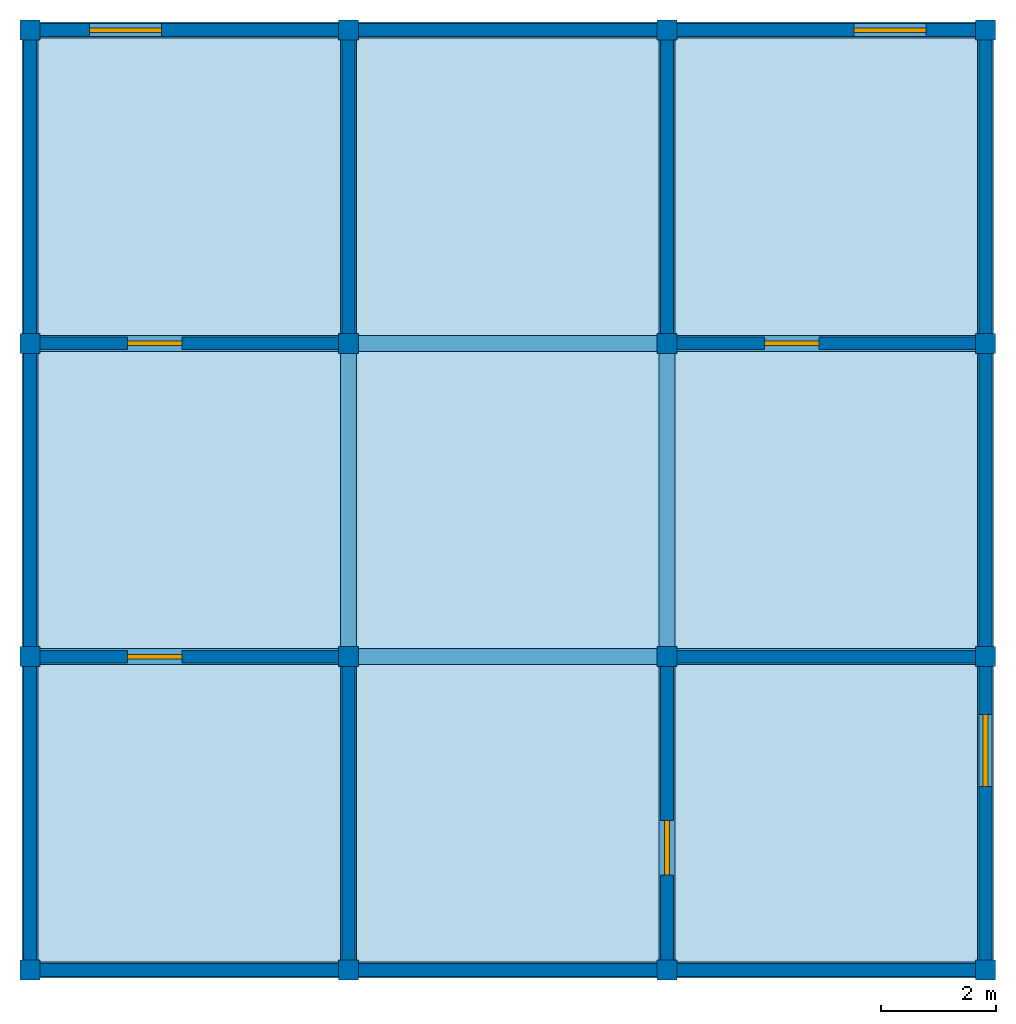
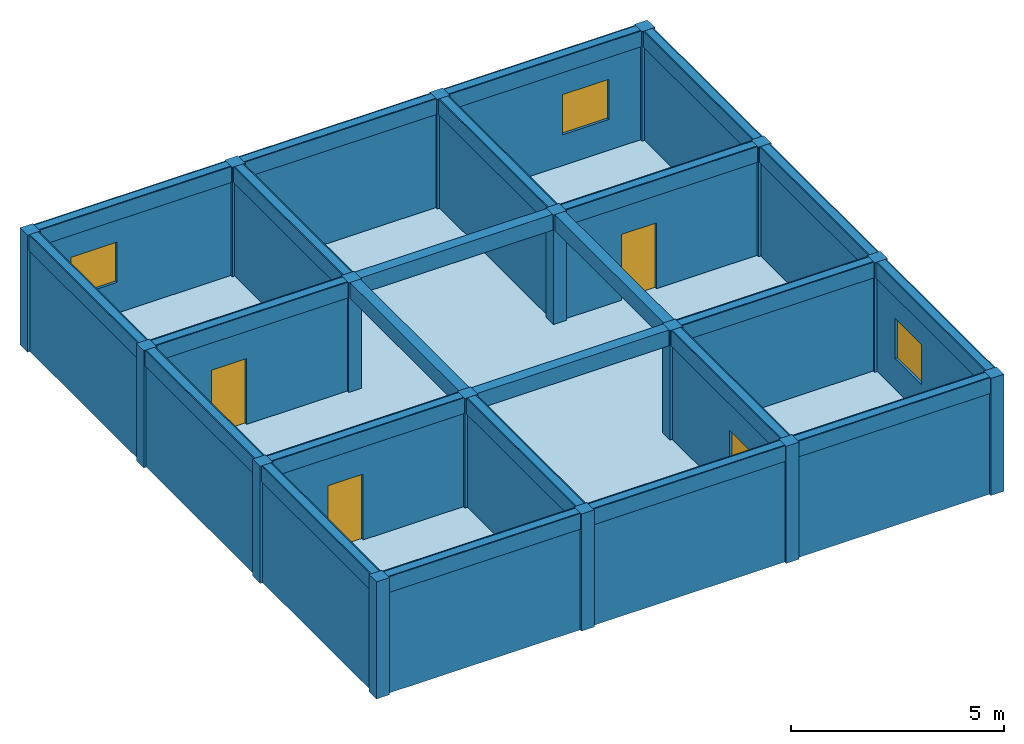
# One storey: 24 beams, 20 walls, 16 columns, 4 doors, 3 windows, 1 slab, 7 openings.
"""IFC4X3 building model written with IfcOpenShell, lengths in metres."""

from ifc_helpers import new_model, si_unit, frame, origin_with_axes, origin_2d, place, context, project, spatial, rectangle, extrude, material, element, fill, save


model = new_model("IFC4X3")

# Units and contexts
model_context = context("Model", 3, precision=1e-05, world=origin_with_axes())
ifc_project = project(units=[si_unit("LENGTHUNIT", "METRE"), si_unit("AREAUNIT", "SQUARE_METRE"), si_unit("VOLUMEUNIT", "CUBIC_METRE")], contexts=[model_context])

# Site, building, storey
site = spatial("IfcSite", under=ifc_project, Name="La Serena Parcel", CompositionType="ELEMENT")
building = spatial("IfcBuilding", under=site, Name="Atlas Building", CompositionType="ELEMENT")
storey = spatial("IfcBuildingStorey", under=building, Name="Level 10", CompositionType="ELEMENT", Elevation=30.14)

# Columns
ifc_material_1 = material(Name="Concrete")
column_1_placement = place(None, frame((-8.31, -8.175, 30.141), z_axis=(0.0, 0.0, 1.0), x_axis=(1.0, 0.0, 0.0)))
element("IfcColumn", 1, at=column_1_placement, inside=storey, material=ifc_material_1, Name="Column 10.1", ObjectType="Facade Column", PredefinedType="NOTDEFINED", context=model_context, shape_type="SweptSolid", body=[
    extrude(rectangle(XDim=0.35, YDim=0.35, at=origin_2d()), origin_with_axes(), (0.0, 0.0, 1.0), 3.349),
])
column_2_placement = place(None, frame((-8.31, -2.725, 30.141), z_axis=(0.0, 0.0, 1.0), x_axis=(1.0, 0.0, 0.0)))
element("IfcColumn", 2, at=column_2_placement, inside=storey, material=ifc_material_1, Name="Column 10.2", ObjectType="Corner Column", PredefinedType="USERDEFINED", context=model_context, shape_type="SweptSolid", body=[
    extrude(rectangle(XDim=0.35, YDim=0.35, at=origin_2d()), origin_with_axes(), (0.0, 0.0, 1.0), 3.349),
])
column_3_placement = place(None, frame((-8.31, 2.725, 30.141), z_axis=(0.0, 0.0, 1.0), x_axis=(1.0, 0.0, 0.0)))
element("IfcColumn", 3, at=column_3_placement, inside=storey, material=ifc_material_1, Name="Column 10.3", ObjectType="Core Column", PredefinedType="USERDEFINED", context=model_context, shape_type="SweptSolid", body=[
    extrude(rectangle(XDim=0.35, YDim=0.35, at=origin_2d()), origin_with_axes(), (0.0, 0.0, 1.0), 3.349),
])
column_4_placement = place(None, frame((-8.31, 8.175, 30.141), z_axis=(0.0, 0.0, 1.0), x_axis=(1.0, 0.0, 0.0)))
element("IfcColumn", 4, at=column_4_placement, inside=storey, material=ifc_material_1, Name="Column 10.4", ObjectType="Structural Column", PredefinedType="NOTDEFINED", context=model_context, shape_type="SweptSolid", body=[
    extrude(rectangle(XDim=0.35, YDim=0.35, at=origin_2d()), origin_with_axes(), (0.0, 0.0, 1.0), 3.349),
])
column_5_placement = place(None, frame((-2.77, -8.175, 30.141), z_axis=(0.0, 0.0, 1.0), x_axis=(1.0, 0.0, 0.0)))
element("IfcColumn", 5, at=column_5_placement, inside=storey, material=ifc_material_1, Name="Column 10.5", ObjectType="Corner Column", PredefinedType="USERDEFINED", context=model_context, shape_type="SweptSolid", body=[
    extrude(rectangle(XDim=0.35, YDim=0.35, at=origin_2d()), origin_with_axes(), (0.0, 0.0, 1.0), 3.349),
])
column_6_placement = place(None, frame((-2.77, -2.725, 30.141), z_axis=(0.0, 0.0, 1.0), x_axis=(1.0, 0.0, 0.0)))
element("IfcColumn", 6, at=column_6_placement, inside=storey, material=ifc_material_1, Name="Column 10.6", ObjectType="Corner Column", PredefinedType="COLUMN", context=model_context, shape_type="SweptSolid", body=[
    extrude(rectangle(XDim=0.35, YDim=0.35, at=origin_2d()), origin_with_axes(), (0.0, 0.0, 1.0), 3.349),
])
column_7_placement = place(None, frame((-2.77, 2.725, 30.141), z_axis=(0.0, 0.0, 1.0), x_axis=(1.0, 0.0, 0.0)))
element("IfcColumn", 7, at=column_7_placement, inside=storey, material=ifc_material_1, Name="Column 10.7", ObjectType="Structural Column", PredefinedType="PILASTER", context=model_context, shape_type="SweptSolid", body=[
    extrude(rectangle(XDim=0.35, YDim=0.35, at=origin_2d()), origin_with_axes(), (0.0, 0.0, 1.0), 3.349),
])
column_8_placement = place(None, frame((-2.77, 8.175, 30.141), z_axis=(0.0, 0.0, 1.0), x_axis=(1.0, 0.0, 0.0)))
element("IfcColumn", 8, at=column_8_placement, inside=storey, material=ifc_material_1, Name="Column 10.8", ObjectType="Core Column", PredefinedType="NOTDEFINED", context=model_context, shape_type="SweptSolid", body=[
    extrude(rectangle(XDim=0.35, YDim=0.35, at=origin_2d()), origin_with_axes(), (0.0, 0.0, 1.0), 3.349),
])
column_9_placement = place(None, frame((2.77, -8.175, 30.141), z_axis=(0.0, 0.0, 1.0), x_axis=(1.0, 0.0, 0.0)))
element("IfcColumn", 9, at=column_9_placement, inside=storey, material=ifc_material_1, Name="Column 10.9", ObjectType="Structural Column", PredefinedType="PILASTER", context=model_context, shape_type="SweptSolid", body=[
    extrude(rectangle(XDim=0.35, YDim=0.35, at=origin_2d()), origin_with_axes(), (0.0, 0.0, 1.0), 3.349),
])
column_10_placement = place(None, frame((2.77, -2.725, 30.141), z_axis=(0.0, 0.0, 1.0), x_axis=(1.0, 0.0, 0.0)))
element("IfcColumn", 10, at=column_10_placement, inside=storey, material=ifc_material_1, Name="Column 10.10", ObjectType="Facade Column", PredefinedType="USERDEFINED", context=model_context, shape_type="SweptSolid", body=[
    extrude(rectangle(XDim=0.35, YDim=0.35, at=origin_2d()), origin_with_axes(), (0.0, 0.0, 1.0), 3.349),
])
column_11_placement = place(None, frame((2.77, 2.725, 30.141), z_axis=(0.0, 0.0, 1.0), x_axis=(1.0, 0.0, 0.0)))
element("IfcColumn", 11, at=column_11_placement, inside=storey, material=ifc_material_1, Name="Column 10.11", ObjectType="Facade Column", PredefinedType="NOTDEFINED", context=model_context, shape_type="SweptSolid", body=[
    extrude(rectangle(XDim=0.35, YDim=0.35, at=origin_2d()), origin_with_axes(), (0.0, 0.0, 1.0), 3.349),
])
for number, where, z_axis, x_axis, name in (
    (12, (2.77, 8.175, 30.141), (0.0, 0.0, 1.0), (1.0, 0.0, 0.0), "Column 10.12"),
    (13, (8.31, -8.175, 30.141), (0.0, 0.0, 1.0), (1.0, 0.0, 0.0), "Column 10.13"),
):
    element("IfcColumn", number, at=place(None, frame(where, z_axis=z_axis, x_axis=x_axis)), inside=storey, material=ifc_material_1, Name=name, ObjectType="Corner Column", PredefinedType="PILASTER", context=model_context, shape_type="SweptSolid", body=[
        extrude(rectangle(XDim=0.35, YDim=0.35, at=origin_2d()), origin_with_axes(), (0.0, 0.0, 1.0), 3.349),
    ])
column_12_placement = place(None, frame((8.31, -2.725, 30.141), z_axis=(0.0, 0.0, 1.0), x_axis=(1.0, 0.0, 0.0)))
element("IfcColumn", 14, at=column_12_placement, inside=storey, material=ifc_material_1, Name="Column 10.14", ObjectType="Facade Column", PredefinedType="USERDEFINED", context=model_context, shape_type="SweptSolid", body=[
    extrude(rectangle(XDim=0.35, YDim=0.35, at=origin_2d()), origin_with_axes(), (0.0, 0.0, 1.0), 3.349),
])
for number, where, z_axis, x_axis, name in (
    (15, (8.31, 2.725, 30.141), (0.0, 0.0, 1.0), (1.0, 0.0, 0.0), "Column 10.15"),
    (16, (8.31, 8.175, 30.141), (0.0, 0.0, 1.0), (1.0, 0.0, 0.0), "Column 10.16"),
):
    element("IfcColumn", number, at=place(None, frame(where, z_axis=z_axis, x_axis=x_axis)), inside=storey, material=ifc_material_1, Name=name, ObjectType="Corner Column", PredefinedType="PILASTER", context=model_context, shape_type="SweptSolid", body=[
        extrude(rectangle(XDim=0.35, YDim=0.35, at=origin_2d()), origin_with_axes(), (0.0, 0.0, 1.0), 3.349),
    ])

# Beams
ifc_material_2 = material(Name="Timber")
beam_1_placement = place(None, frame((-5.54, -8.175, 33.04), z_axis=(0.0, 0.0, 1.0), x_axis=(1.0, 0.0, 0.0)))
element("IfcBeam", 17, at=beam_1_placement, inside=storey, material=ifc_material_2, Name="Beam 10.1", ObjectType="Rafter Beam", PredefinedType="NOTDEFINED", context=model_context, shape_type="SweptSolid", body=[
    extrude(rectangle(XDim=5.54, YDim=0.28, at=origin_2d()), origin_with_axes(), (0.0, 0.0, 1.0), 0.45),
])
beam_2_placement = place(None, frame((0.0, -8.175, 33.04), z_axis=(0.0, 0.0, 1.0), x_axis=(1.0, 0.0, 0.0)))
element("IfcBeam", 18, at=beam_2_placement, inside=storey, material=ifc_material_2, Name="Beam 10.2", ObjectType="Ridge Beam", PredefinedType="NOTDEFINED", context=model_context, shape_type="SweptSolid", body=[
    extrude(rectangle(XDim=5.54, YDim=0.28, at=origin_2d()), origin_with_axes(), (0.0, 0.0, 1.0), 0.45),
])
beam_3_placement = place(None, frame((5.54, -8.175, 33.04), z_axis=(0.0, 0.0, 1.0), x_axis=(1.0, 0.0, 0.0)))
element("IfcBeam", 19, at=beam_3_placement, inside=storey, material=ifc_material_2, Name="Beam 10.3", ObjectType="Primary Beam", PredefinedType="JOIST", context=model_context, shape_type="SweptSolid", body=[
    extrude(rectangle(XDim=5.54, YDim=0.28, at=origin_2d()), origin_with_axes(), (0.0, 0.0, 1.0), 0.45),
])
beam_4_placement = place(None, frame((-5.54, -2.725, 33.04), z_axis=(0.0, 0.0, 1.0), x_axis=(1.0, 0.0, 0.0)))
element("IfcBeam", 20, at=beam_4_placement, inside=storey, material=ifc_material_2, Name="Beam 10.4", ObjectType="Transfer Beam", PredefinedType="HOLLOWCORE", context=model_context, shape_type="SweptSolid", body=[
    extrude(rectangle(XDim=5.54, YDim=0.28, at=origin_2d()), origin_with_axes(), (0.0, 0.0, 1.0), 0.45),
])
beam_5_placement = place(None, frame((0.0, -2.725, 33.04), z_axis=(0.0, 0.0, 1.0), x_axis=(1.0, 0.0, 0.0)))
element("IfcBeam", 21, at=beam_5_placement, inside=storey, material=ifc_material_2, Name="Beam 10.5", ObjectType="Transfer Beam", PredefinedType="USERDEFINED", context=model_context, shape_type="SweptSolid", body=[
    extrude(rectangle(XDim=5.54, YDim=0.28, at=origin_2d()), origin_with_axes(), (0.0, 0.0, 1.0), 0.45),
])
beam_6_placement = place(None, frame((5.54, -2.725, 33.04), z_axis=(0.0, 0.0, 1.0), x_axis=(1.0, 0.0, 0.0)))
element("IfcBeam", 22, at=beam_6_placement, inside=storey, material=ifc_material_2, Name="Beam 10.6", ObjectType="Primary Beam", PredefinedType="JOIST", context=model_context, shape_type="SweptSolid", body=[
    extrude(rectangle(XDim=5.54, YDim=0.28, at=origin_2d()), origin_with_axes(), (0.0, 0.0, 1.0), 0.45),
])
beam_7_placement = place(None, frame((-5.54, 2.725, 33.04), z_axis=(0.0, 0.0, 1.0), x_axis=(1.0, 0.0, 0.0)))
element("IfcBeam", 23, at=beam_7_placement, inside=storey, material=ifc_material_2, Name="Beam 10.7", ObjectType="Primary Beam", PredefinedType="HOLLOWCORE", context=model_context, shape_type="SweptSolid", body=[
    extrude(rectangle(XDim=5.54, YDim=0.28, at=origin_2d()), origin_with_axes(), (0.0, 0.0, 1.0), 0.45),
])
beam_8_placement = place(None, frame((0.0, 2.725, 33.04), z_axis=(0.0, 0.0, 1.0), x_axis=(1.0, 0.0, 0.0)))
element("IfcBeam", 24, at=beam_8_placement, inside=storey, material=ifc_material_2, Name="Beam 10.8", ObjectType="Transfer Beam", PredefinedType="NOTDEFINED", context=model_context, shape_type="SweptSolid", body=[
    extrude(rectangle(XDim=5.54, YDim=0.28, at=origin_2d()), origin_with_axes(), (0.0, 0.0, 1.0), 0.45),
])
beam_9_placement = place(None, frame((5.54, 2.725, 33.04), z_axis=(0.0, 0.0, 1.0), x_axis=(1.0, 0.0, 0.0)))
element("IfcBeam", 25, at=beam_9_placement, inside=storey, material=ifc_material_2, Name="Beam 10.9", ObjectType="Ridge Beam", PredefinedType="BEAM", context=model_context, shape_type="SweptSolid", body=[
    extrude(rectangle(XDim=5.54, YDim=0.28, at=origin_2d()), origin_with_axes(), (0.0, 0.0, 1.0), 0.45),
])
beam_10_placement = place(None, frame((-5.54, 8.175, 33.04), z_axis=(0.0, 0.0, 1.0), x_axis=(1.0, 0.0, 0.0)))
element("IfcBeam", 26, at=beam_10_placement, inside=storey, material=ifc_material_2, Name="Beam 10.10", ObjectType="Ridge Beam", PredefinedType="USERDEFINED", context=model_context, shape_type="SweptSolid", body=[
    extrude(rectangle(XDim=5.54, YDim=0.28, at=origin_2d()), origin_with_axes(), (0.0, 0.0, 1.0), 0.45),
])
beam_11_placement = place(None, frame((0.0, 8.175, 33.04), z_axis=(0.0, 0.0, 1.0), x_axis=(1.0, 0.0, 0.0)))
element("IfcBeam", 27, at=beam_11_placement, inside=storey, material=ifc_material_2, Name="Beam 10.11", ObjectType="Rafter Beam", PredefinedType="HOLLOWCORE", context=model_context, shape_type="SweptSolid", body=[
    extrude(rectangle(XDim=5.54, YDim=0.28, at=origin_2d()), origin_with_axes(), (0.0, 0.0, 1.0), 0.45),
])
beam_12_placement = place(None, frame((5.54, 8.175, 33.04), z_axis=(0.0, 0.0, 1.0), x_axis=(1.0, 0.0, 0.0)))
element("IfcBeam", 28, at=beam_12_placement, inside=storey, material=ifc_material_2, Name="Beam 10.12", ObjectType="Rafter Beam", PredefinedType="USERDEFINED", context=model_context, shape_type="SweptSolid", body=[
    extrude(rectangle(XDim=5.54, YDim=0.28, at=origin_2d()), origin_with_axes(), (0.0, 0.0, 1.0), 0.45),
])
for number, where, z_axis, x_axis, name in (
    (29, (-8.31, -5.45, 33.04), (0.0, 0.0, 1.0), (0.0, 1.0, 0.0), "Beam 10.13"),
    (30, (-8.31, 0.0, 33.04), (0.0, 0.0, 1.0), (0.0, 1.0, 0.0), "Beam 10.14"),
):
    element("IfcBeam", number, at=place(None, frame(where, z_axis=z_axis, x_axis=x_axis)), inside=storey, material=ifc_material_2, Name=name, ObjectType="Transfer Beam", PredefinedType="LINTEL", context=model_context, shape_type="SweptSolid", body=[
        extrude(rectangle(XDim=5.45, YDim=0.28, at=origin_2d()), origin_with_axes(), (0.0, 0.0, 1.0), 0.45),
    ])
beam_13_placement = place(None, frame((-8.31, 5.45, 33.04), z_axis=(0.0, 0.0, 1.0), x_axis=(0.0, 1.0, 0.0)))
element("IfcBeam", 31, at=beam_13_placement, inside=storey, material=ifc_material_2, Name="Beam 10.15", ObjectType="Secondary Beam", PredefinedType="LINTEL", context=model_context, shape_type="SweptSolid", body=[
    extrude(rectangle(XDim=5.45, YDim=0.28, at=origin_2d()), origin_with_axes(), (0.0, 0.0, 1.0), 0.45),
])
beam_14_placement = place(None, frame((-2.77, -5.45, 33.04), z_axis=(0.0, 0.0, 1.0), x_axis=(0.0, 1.0, 0.0)))
element("IfcBeam", 32, at=beam_14_placement, inside=storey, material=ifc_material_2, Name="Beam 10.16", ObjectType="Ridge Beam", PredefinedType="NOTDEFINED", context=model_context, shape_type="SweptSolid", body=[
    extrude(rectangle(XDim=5.45, YDim=0.28, at=origin_2d()), origin_with_axes(), (0.0, 0.0, 1.0), 0.45),
])
beam_15_placement = place(None, frame((-2.77, 0.0, 33.04), z_axis=(0.0, 0.0, 1.0), x_axis=(0.0, 1.0, 0.0)))
element("IfcBeam", 33, at=beam_15_placement, inside=storey, material=ifc_material_2, Name="Beam 10.17", ObjectType="Rafter Beam", PredefinedType="LINTEL", context=model_context, shape_type="SweptSolid", body=[
    extrude(rectangle(XDim=5.45, YDim=0.28, at=origin_2d()), origin_with_axes(), (0.0, 0.0, 1.0), 0.45),
])
beam_16_placement = place(None, frame((-2.77, 5.45, 33.04), z_axis=(0.0, 0.0, 1.0), x_axis=(0.0, 1.0, 0.0)))
element("IfcBeam", 34, at=beam_16_placement, inside=storey, material=ifc_material_2, Name="Beam 10.18", ObjectType="Transfer Beam", PredefinedType="USERDEFINED", context=model_context, shape_type="SweptSolid", body=[
    extrude(rectangle(XDim=5.45, YDim=0.28, at=origin_2d()), origin_with_axes(), (0.0, 0.0, 1.0), 0.45),
])
beam_17_placement = place(None, frame((2.77, -5.45, 33.04), z_axis=(0.0, 0.0, 1.0), x_axis=(0.0, 1.0, 0.0)))
element("IfcBeam", 35, at=beam_17_placement, inside=storey, material=ifc_material_2, Name="Beam 10.19", ObjectType="Rafter Beam", PredefinedType="NOTDEFINED", context=model_context, shape_type="SweptSolid", body=[
    extrude(rectangle(XDim=5.45, YDim=0.28, at=origin_2d()), origin_with_axes(), (0.0, 0.0, 1.0), 0.45),
])
beam_18_placement = place(None, frame((2.77, 0.0, 33.04), z_axis=(0.0, 0.0, 1.0), x_axis=(0.0, 1.0, 0.0)))
element("IfcBeam", 36, at=beam_18_placement, inside=storey, material=ifc_material_2, Name="Beam 10.20", ObjectType="Rafter Beam", PredefinedType="HOLLOWCORE", context=model_context, shape_type="SweptSolid", body=[
    extrude(rectangle(XDim=5.45, YDim=0.28, at=origin_2d()), origin_with_axes(), (0.0, 0.0, 1.0), 0.45),
])
beam_19_placement = place(None, frame((2.77, 5.45, 33.04), z_axis=(0.0, 0.0, 1.0), x_axis=(0.0, 1.0, 0.0)))
element("IfcBeam", 37, at=beam_19_placement, inside=storey, material=ifc_material_2, Name="Beam 10.21", ObjectType="Transfer Beam", PredefinedType="USERDEFINED", context=model_context, shape_type="SweptSolid", body=[
    extrude(rectangle(XDim=5.45, YDim=0.28, at=origin_2d()), origin_with_axes(), (0.0, 0.0, 1.0), 0.45),
])
beam_20_placement = place(None, frame((8.31, -5.45, 33.04), z_axis=(0.0, 0.0, 1.0), x_axis=(0.0, 1.0, 0.0)))
element("IfcBeam", 38, at=beam_20_placement, inside=storey, material=ifc_material_2, Name="Beam 10.22", ObjectType="Rafter Beam", PredefinedType="BEAM", context=model_context, shape_type="SweptSolid", body=[
    extrude(rectangle(XDim=5.45, YDim=0.28, at=origin_2d()), origin_with_axes(), (0.0, 0.0, 1.0), 0.45),
])
beam_21_placement = place(None, frame((8.31, 0.0, 33.04), z_axis=(0.0, 0.0, 1.0), x_axis=(0.0, 1.0, 0.0)))
element("IfcBeam", 39, at=beam_21_placement, inside=storey, material=ifc_material_2, Name="Beam 10.23", ObjectType="Transfer Beam", PredefinedType="NOTDEFINED", context=model_context, shape_type="SweptSolid", body=[
    extrude(rectangle(XDim=5.45, YDim=0.28, at=origin_2d()), origin_with_axes(), (0.0, 0.0, 1.0), 0.45),
])
beam_22_placement = place(None, frame((8.31, 5.45, 33.04), z_axis=(0.0, 0.0, 1.0), x_axis=(0.0, 1.0, 0.0)))
element("IfcBeam", 40, at=beam_22_placement, inside=storey, material=ifc_material_2, Name="Beam 10.24", ObjectType="Primary Beam", PredefinedType="HOLLOWCORE", context=model_context, shape_type="SweptSolid", body=[
    extrude(rectangle(XDim=5.45, YDim=0.28, at=origin_2d()), origin_with_axes(), (0.0, 0.0, 1.0), 0.45),
])

# Slab
slab_placement = place(None, frame((0.0, 0.0, 30.14), z_axis=(0.0, 0.0, 1.0), x_axis=(1.0, 0.0, 0.0)))
element("IfcSlab", 41, at=slab_placement, inside=storey, material=ifc_material_2, Name="Slab 10", ObjectType="Floor Slab", PredefinedType="FLOOR", context=model_context, shape_type="SweptSolid", body=[
    extrude(rectangle(XDim=16.62, YDim=16.35, at=origin_2d()), origin_with_axes(), (0.0, 0.0, 1.0), 0.22),
])

# Wall, opening, door
ifc_material_3 = material(Name="Gypsum")
wall_1_placement = place(None, frame((-5.54, -2.725, 30.141), z_axis=(0.0, 0.0, 1.0), x_axis=(1.0, 0.0, 0.0)))
wall_1 = element("IfcWall", 42, at=wall_1_placement, inside=storey, material=ifc_material_3, Name="Wall 10.1", ObjectType="Corridor Partition", PredefinedType="USERDEFINED", context=model_context, shape_type="SweptSolid", body=[
    extrude(rectangle(XDim=5.54, YDim=0.21975, at=origin_2d()), origin_with_axes(), (0.0, 0.0, 1.0), 3.349),
])
opening_1_placement = place(None, frame((-6.14, -2.725, 30.141), z_axis=(0.0, 0.0, 1.0), x_axis=(1.0, 0.0, 0.0)))
opening_1 = element("IfcOpeningElement", 43, at=opening_1_placement, cuts=wall_1, Name="Door opening 10.1", ObjectType="Door Opening", PredefinedType="OPENING", context=model_context, shape_type="SweptSolid", body=[
    extrude(rectangle(XDim=0.95, YDim=0.29975, at=origin_2d()), origin_with_axes(), (0.0, 0.0, 1.0), 2.1),
])
door_1_placement = place(None, frame((-6.14, -2.725, 30.141), z_axis=(0.0, 0.0, 1.0), x_axis=(1.0, 0.0, 0.0)))
door_1 = element("IfcDoor", 44, at=door_1_placement, inside=storey, Name="Door 10.1", ObjectType="Fire Door", OverallHeight=2.1, OverallWidth=0.95, context=model_context, shape_type="SweptSolid", body=[
    extrude(rectangle(XDim=0.95, YDim=0.08, at=origin_2d()), origin_with_axes(), (0.0, 0.0, 1.0), 2.1),
])
fill(opening_1, door_1)

# Walls
ifc_material_4 = material(Name="Brick")
wall_2_placement = place(None, frame((-2.77, -5.45, 30.141), z_axis=(0.0, 0.0, 1.0), x_axis=(0.0, 1.0, 0.0)))
element("IfcWall", 45, at=wall_2_placement, inside=storey, material=ifc_material_4, Name="Wall 10.2", ObjectType="Corridor Partition", PredefinedType="NOTDEFINED", context=model_context, shape_type="SweptSolid", body=[
    extrude(rectangle(XDim=5.45, YDim=0.21975, at=origin_2d()), origin_with_axes(), (0.0, 0.0, 1.0), 3.349),
])
wall_3_placement = place(None, frame((-5.54, -8.175, 30.141), z_axis=(0.0, 0.0, 1.0), x_axis=(1.0, 0.0, 0.0)))
element("IfcWall", 46, at=wall_3_placement, inside=storey, material=ifc_material_3, Name="Wall 10.3", ObjectType="Exterior Wall", PredefinedType="PARAPET", context=model_context, shape_type="SweptSolid", body=[
    extrude(rectangle(XDim=5.54, YDim=0.21975, at=origin_2d()), origin_with_axes(), (0.0, 0.0, 1.0), 3.349),
])
wall_4_placement = place(None, frame((-8.31, -5.45, 30.141), z_axis=(0.0, 0.0, 1.0), x_axis=(0.0, 1.0, 0.0)))
element("IfcWall", 47, at=wall_4_placement, inside=storey, material=ifc_material_4, Name="Wall 10.4", ObjectType="Exterior Wall", PredefinedType="POLYGONAL", context=model_context, shape_type="SweptSolid", body=[
    extrude(rectangle(XDim=5.45, YDim=0.21975, at=origin_2d()), origin_with_axes(), (0.0, 0.0, 1.0), 3.349),
])

# Wall, opening, door
wall_5_placement = place(None, frame((2.77, -5.45, 30.141), z_axis=(0.0, 0.0, 1.0), x_axis=(0.0, 1.0, 0.0)))
wall_5 = element("IfcWall", 48, at=wall_5_placement, inside=storey, material=ifc_material_4, Name="Wall 10.5", ObjectType="Corridor Partition", PredefinedType="PARAPET", context=model_context, shape_type="SweptSolid", body=[
    extrude(rectangle(XDim=5.45, YDim=0.21975, at=origin_2d()), origin_with_axes(), (0.0, 0.0, 1.0), 3.349),
])
opening_2_placement = place(None, frame((2.77, -6.05, 30.141), z_axis=(0.0, 0.0, 1.0), x_axis=(0.0, 1.0, 0.0)))
opening_2 = element("IfcOpeningElement", 49, at=opening_2_placement, cuts=wall_5, Name="Door opening 10.2", ObjectType="Door Opening", PredefinedType="OPENING", context=model_context, shape_type="SweptSolid", body=[
    extrude(rectangle(XDim=0.95, YDim=0.29975, at=origin_2d()), origin_with_axes(), (0.0, 0.0, 1.0), 2.1),
])
door_2_placement = place(None, frame((2.77, -6.05, 30.141), z_axis=(0.0, 0.0, 1.0), x_axis=(0.0, 1.0, 0.0)))
door_2 = element("IfcDoor", 50, at=door_2_placement, inside=storey, Name="Door 10.2", ObjectType="Entry Door", OverallHeight=2.1, OverallWidth=0.95, context=model_context, shape_type="SweptSolid", body=[
    extrude(rectangle(XDim=0.95, YDim=0.08, at=origin_2d()), origin_with_axes(), (0.0, 0.0, 1.0), 2.1),
])
fill(opening_2, door_2)

# Walls
wall_6_placement = place(None, frame((0.0, -8.175, 30.141), z_axis=(0.0, 0.0, 1.0), x_axis=(1.0, 0.0, 0.0)))
element("IfcWall", 51, at=wall_6_placement, inside=storey, material=ifc_material_4, Name="Wall 10.6", ObjectType="Exterior Wall", PredefinedType="NOTDEFINED", context=model_context, shape_type="SweptSolid", body=[
    extrude(rectangle(XDim=5.54, YDim=0.21975, at=origin_2d()), origin_with_axes(), (0.0, 0.0, 1.0), 3.349),
])
wall_7_placement = place(None, frame((5.54, -2.725, 30.141), z_axis=(0.0, 0.0, 1.0), x_axis=(1.0, 0.0, 0.0)))
element("IfcWall", 52, at=wall_7_placement, inside=storey, material=ifc_material_4, Name="Wall 10.7", ObjectType="Corridor Partition", PredefinedType="PLUMBINGWALL", context=model_context, shape_type="SweptSolid", body=[
    extrude(rectangle(XDim=5.54, YDim=0.21975, at=origin_2d()), origin_with_axes(), (0.0, 0.0, 1.0), 3.349),
])

# Wall, opening, window
ifc_material_5 = material(Name="CLT")
wall_8_placement = place(None, frame((8.31, -5.45, 30.141), z_axis=(0.0, 0.0, 1.0), x_axis=(0.0, 1.0, 0.0)))
wall_8 = element("IfcWall", 53, at=wall_8_placement, inside=storey, material=ifc_material_5, Name="Wall 10.8", ObjectType="Exterior Wall", PredefinedType="SOLIDWALL", context=model_context, shape_type="SweptSolid", body=[
    extrude(rectangle(XDim=5.45, YDim=0.21975, at=origin_2d()), origin_with_axes(), (0.0, 0.0, 1.0), 3.349),
])
opening_3_placement = place(None, frame((8.31, -4.36, 31.241), z_axis=(0.0, 0.0, 1.0), x_axis=(0.0, 1.0, 0.0)))
opening_3 = element("IfcOpeningElement", 54, at=opening_3_placement, cuts=wall_8, Name="Window opening 10.3", ObjectType="Window Opening", PredefinedType="OPENING", context=model_context, shape_type="SweptSolid", body=[
    extrude(rectangle(XDim=1.25, YDim=0.29975, at=origin_2d()), origin_with_axes(), (0.0, 0.0, 1.0), 1.15),
])
window_1_placement = place(None, frame((8.31, -4.36, 31.241), z_axis=(0.0, 0.0, 1.0), x_axis=(0.0, 1.0, 0.0)))
window_1 = element("IfcWindow", 55, at=window_1_placement, inside=storey, Name="Window 10.3", ObjectType="Operable Window", OverallHeight=1.15, OverallWidth=1.25, context=model_context, shape_type="SweptSolid", body=[
    extrude(rectangle(XDim=1.25, YDim=0.08, at=origin_2d()), origin_with_axes(), (0.0, 0.0, 1.0), 1.15),
])
fill(opening_3, window_1)

# Wall
wall_9_placement = place(None, frame((5.54, -8.175, 30.141), z_axis=(0.0, 0.0, 1.0), x_axis=(1.0, 0.0, 0.0)))
element("IfcWall", 56, at=wall_9_placement, inside=storey, material=ifc_material_5, Name="Wall 10.9", ObjectType="Exterior Wall", PredefinedType="SOLIDWALL", context=model_context, shape_type="SweptSolid", body=[
    extrude(rectangle(XDim=5.54, YDim=0.21975, at=origin_2d()), origin_with_axes(), (0.0, 0.0, 1.0), 3.349),
])

# Wall, opening, door
wall_10_placement = place(None, frame((-5.54, 2.725, 30.141), z_axis=(0.0, 0.0, 1.0), x_axis=(1.0, 0.0, 0.0)))
wall_10 = element("IfcWall", 57, at=wall_10_placement, inside=storey, material=ifc_material_1, Name="Wall 10.10", ObjectType="Corridor Partition", PredefinedType="ELEMENTEDWALL", context=model_context, shape_type="SweptSolid", body=[
    extrude(rectangle(XDim=5.54, YDim=0.21975, at=origin_2d()), origin_with_axes(), (0.0, 0.0, 1.0), 3.349),
])
opening_4_placement = place(None, frame((-6.14, 2.725, 30.141), z_axis=(0.0, 0.0, 1.0), x_axis=(1.0, 0.0, 0.0)))
opening_4 = element("IfcOpeningElement", 58, at=opening_4_placement, cuts=wall_10, Name="Door opening 10.4", ObjectType="Door Opening", PredefinedType="OPENING", context=model_context, shape_type="SweptSolid", body=[
    extrude(rectangle(XDim=0.95, YDim=0.29975, at=origin_2d()), origin_with_axes(), (0.0, 0.0, 1.0), 2.1),
])
door_3_placement = place(None, frame((-6.14, 2.725, 30.141), z_axis=(0.0, 0.0, 1.0), x_axis=(1.0, 0.0, 0.0)))
door_3 = element("IfcDoor", 59, at=door_3_placement, inside=storey, Name="Door 10.4", ObjectType="Entry Door", OverallHeight=2.1, OverallWidth=0.95, context=model_context, shape_type="SweptSolid", body=[
    extrude(rectangle(XDim=0.95, YDim=0.08, at=origin_2d()), origin_with_axes(), (0.0, 0.0, 1.0), 2.1),
])
fill(opening_4, door_3)

# Wall
wall_11_placement = place(None, frame((-8.31, 0.0, 30.141), z_axis=(0.0, 0.0, 1.0), x_axis=(0.0, 1.0, 0.0)))
element("IfcWall", 60, at=wall_11_placement, inside=storey, material=ifc_material_4, Name="Wall 10.11", ObjectType="Exterior Wall", PredefinedType="USERDEFINED", context=model_context, shape_type="SweptSolid", body=[
    extrude(rectangle(XDim=5.45, YDim=0.21975, at=origin_2d()), origin_with_axes(), (0.0, 0.0, 1.0), 3.349),
])

# Wall, opening, door
wall_12_placement = place(None, frame((5.54, 2.725, 30.141), z_axis=(0.0, 0.0, 1.0), x_axis=(1.0, 0.0, 0.0)))
wall_12 = element("IfcWall", 61, at=wall_12_placement, inside=storey, material=ifc_material_3, Name="Wall 10.12", ObjectType="Corridor Partition", PredefinedType="PARTITIONING", context=model_context, shape_type="SweptSolid", body=[
    extrude(rectangle(XDim=5.54, YDim=0.21975, at=origin_2d()), origin_with_axes(), (0.0, 0.0, 1.0), 3.349),
])
opening_5_placement = place(None, frame((4.94, 2.725, 30.141), z_axis=(0.0, 0.0, 1.0), x_axis=(1.0, 0.0, 0.0)))
opening_5 = element("IfcOpeningElement", 62, at=opening_5_placement, cuts=wall_12, Name="Door opening 10.6", ObjectType="Door Opening", PredefinedType="OPENING", context=model_context, shape_type="SweptSolid", body=[
    extrude(rectangle(XDim=0.95, YDim=0.29975, at=origin_2d()), origin_with_axes(), (0.0, 0.0, 1.0), 2.1),
])
door_4_placement = place(None, frame((4.94, 2.725, 30.141), z_axis=(0.0, 0.0, 1.0), x_axis=(1.0, 0.0, 0.0)))
door_4 = element("IfcDoor", 63, at=door_4_placement, inside=storey, Name="Door 10.6", ObjectType="Interior Door", OverallHeight=2.1, OverallWidth=0.95, context=model_context, shape_type="SweptSolid", body=[
    extrude(rectangle(XDim=0.95, YDim=0.08, at=origin_2d()), origin_with_axes(), (0.0, 0.0, 1.0), 2.1),
])
fill(opening_5, door_4)

# Wall
wall_13_placement = place(None, frame((8.31, 0.0, 30.141), z_axis=(0.0, 0.0, 1.0), x_axis=(0.0, 1.0, 0.0)))
element("IfcWall", 64, at=wall_13_placement, inside=storey, material=ifc_material_5, Name="Wall 10.13", ObjectType="Exterior Wall", PredefinedType="PARTITIONING", context=model_context, shape_type="SweptSolid", body=[
    extrude(rectangle(XDim=5.45, YDim=0.21975, at=origin_2d()), origin_with_axes(), (0.0, 0.0, 1.0), 3.349),
])

# Wall, opening, window
wall_14_placement = place(None, frame((-5.54, 8.175, 30.141), z_axis=(0.0, 0.0, 1.0), x_axis=(1.0, 0.0, 0.0)))
wall_14 = element("IfcWall", 65, at=wall_14_placement, inside=storey, material=ifc_material_3, Name="Wall 10.14", ObjectType="Exterior Wall", PredefinedType="USERDEFINED", context=model_context, shape_type="SweptSolid", body=[
    extrude(rectangle(XDim=5.54, YDim=0.21975, at=origin_2d()), origin_with_axes(), (0.0, 0.0, 1.0), 3.349),
])
opening_6_placement = place(None, frame((-6.648, 8.175, 31.241), z_axis=(0.0, 0.0, 1.0), x_axis=(1.0, 0.0, 0.0)))
opening_6 = element("IfcOpeningElement", 66, at=opening_6_placement, cuts=wall_14, Name="Window opening 10.5", ObjectType="Window Opening", PredefinedType="OPENING", context=model_context, shape_type="SweptSolid", body=[
    extrude(rectangle(XDim=1.25, YDim=0.29975, at=origin_2d()), origin_with_axes(), (0.0, 0.0, 1.0), 1.15),
])
window_2_placement = place(None, frame((-6.648, 8.175, 31.241), z_axis=(0.0, 0.0, 1.0), x_axis=(1.0, 0.0, 0.0)))
window_2 = element("IfcWindow", 67, at=window_2_placement, inside=storey, Name="Window 10.5", ObjectType="Sliding Window", OverallHeight=1.15, OverallWidth=1.25, context=model_context, shape_type="SweptSolid", body=[
    extrude(rectangle(XDim=1.25, YDim=0.08, at=origin_2d()), origin_with_axes(), (0.0, 0.0, 1.0), 1.15),
])
fill(opening_6, window_2)

# Walls
wall_15_placement = place(None, frame((-2.77, 5.45, 30.141), z_axis=(0.0, 0.0, 1.0), x_axis=(0.0, 1.0, 0.0)))
element("IfcWall", 68, at=wall_15_placement, inside=storey, material=ifc_material_5, Name="Wall 10.15", ObjectType="Corridor Partition", PredefinedType="PARAPET", context=model_context, shape_type="SweptSolid", body=[
    extrude(rectangle(XDim=5.45, YDim=0.21975, at=origin_2d()), origin_with_axes(), (0.0, 0.0, 1.0), 3.349),
])
wall_16_placement = place(None, frame((-8.31, 5.45, 30.141), z_axis=(0.0, 0.0, 1.0), x_axis=(0.0, 1.0, 0.0)))
element("IfcWall", 69, at=wall_16_placement, inside=storey, material=ifc_material_3, Name="Wall 10.16", ObjectType="Exterior Wall", PredefinedType="NOTDEFINED", context=model_context, shape_type="SweptSolid", body=[
    extrude(rectangle(XDim=5.45, YDim=0.21975, at=origin_2d()), origin_with_axes(), (0.0, 0.0, 1.0), 3.349),
])
wall_17_placement = place(None, frame((0.0, 8.175, 30.141), z_axis=(0.0, 0.0, 1.0), x_axis=(1.0, 0.0, 0.0)))
element("IfcWall", 70, at=wall_17_placement, inside=storey, material=ifc_material_4, Name="Wall 10.17", ObjectType="Exterior Wall", PredefinedType="MOVABLE", context=model_context, shape_type="SweptSolid", body=[
    extrude(rectangle(XDim=5.54, YDim=0.21975, at=origin_2d()), origin_with_axes(), (0.0, 0.0, 1.0), 3.349),
])
wall_18_placement = place(None, frame((2.77, 5.45, 30.141), z_axis=(0.0, 0.0, 1.0), x_axis=(0.0, 1.0, 0.0)))
element("IfcWall", 71, at=wall_18_placement, inside=storey, material=ifc_material_1, Name="Wall 10.18", ObjectType="Corridor Partition", PredefinedType="USERDEFINED", context=model_context, shape_type="SweptSolid", body=[
    extrude(rectangle(XDim=5.45, YDim=0.21975, at=origin_2d()), origin_with_axes(), (0.0, 0.0, 1.0), 3.349),
])

# Wall, opening, window
wall_19_placement = place(None, frame((5.54, 8.175, 30.141), z_axis=(0.0, 0.0, 1.0), x_axis=(1.0, 0.0, 0.0)))
wall_19 = element("IfcWall", 72, at=wall_19_placement, inside=storey, material=ifc_material_3, Name="Wall 10.19", ObjectType="Exterior Wall", PredefinedType="USERDEFINED", context=model_context, shape_type="SweptSolid", body=[
    extrude(rectangle(XDim=5.54, YDim=0.21975, at=origin_2d()), origin_with_axes(), (0.0, 0.0, 1.0), 3.349),
])
opening_7_placement = place(None, frame((6.648, 8.175, 31.241), z_axis=(0.0, 0.0, 1.0), x_axis=(1.0, 0.0, 0.0)))
opening_7 = element("IfcOpeningElement", 73, at=opening_7_placement, cuts=wall_19, Name="Window opening 10.7", ObjectType="Window Opening", PredefinedType="OPENING", context=model_context, shape_type="SweptSolid", body=[
    extrude(rectangle(XDim=1.25, YDim=0.29975, at=origin_2d()), origin_with_axes(), (0.0, 0.0, 1.0), 1.15),
])
window_3_placement = place(None, frame((6.648, 8.175, 31.241), z_axis=(0.0, 0.0, 1.0), x_axis=(1.0, 0.0, 0.0)))
window_3 = element("IfcWindow", 74, at=window_3_placement, inside=storey, Name="Window 10.7", ObjectType="Louvre Window", OverallHeight=1.15, OverallWidth=1.25, context=model_context, shape_type="SweptSolid", body=[
    extrude(rectangle(XDim=1.25, YDim=0.08, at=origin_2d()), origin_with_axes(), (0.0, 0.0, 1.0), 1.15),
])
fill(opening_7, window_3)

# Wall
wall_20_placement = place(None, frame((8.31, 5.45, 30.141), z_axis=(0.0, 0.0, 1.0), x_axis=(0.0, 1.0, 0.0)))
element("IfcWall", 75, at=wall_20_placement, inside=storey, material=ifc_material_3, Name="Wall 10.20", ObjectType="Exterior Wall", PredefinedType="STANDARD", context=model_context, shape_type="SweptSolid", body=[
    extrude(rectangle(XDim=5.45, YDim=0.21975, at=origin_2d()), origin_with_axes(), (0.0, 0.0, 1.0), 3.349),
])

save(model, "model.ifc")
